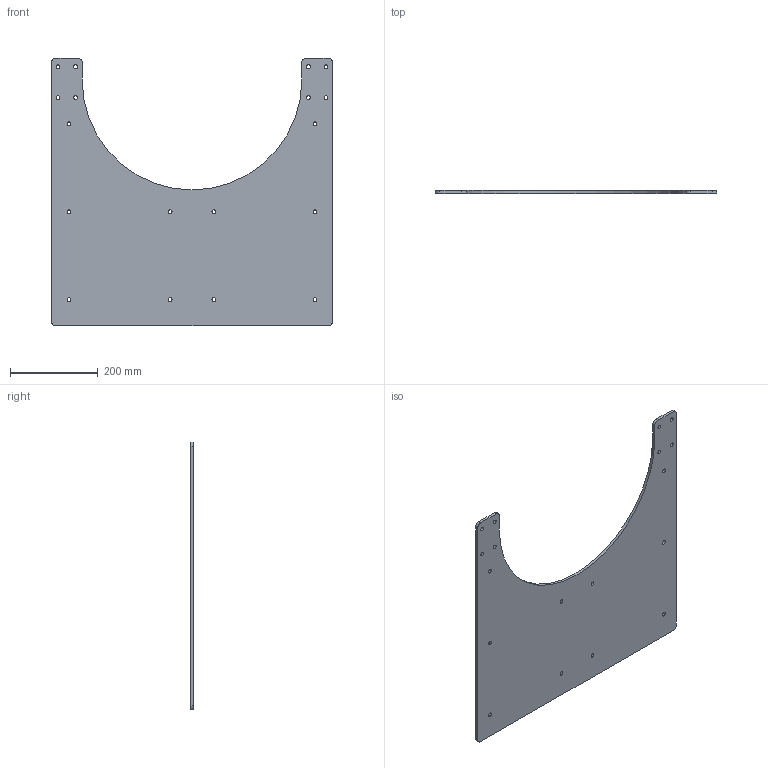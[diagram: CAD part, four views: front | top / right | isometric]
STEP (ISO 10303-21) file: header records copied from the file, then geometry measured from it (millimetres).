
FILE_DESCRIPTION (( 'STEP AP214' ), '1' );
FILE_NAME ('MISC1812ES120BWLTBL.STEP', '2021-03-08T22:55:02', ( '' ), ( '' ), 'SwSTEP 2.0', 'SolidWorks 2021', '' );
FILE_SCHEMA (( 'AUTOMOTIVE_DESIGN' ));
Length unit declared in the file: millimetre
Products named in the file (1): MISC1812ES120BWLTBL
Bounding box: 640 x 6.5 x 610 mm (x, y, z)
Volume: 1728037.6 mm3; surface area: 553602.3 mm2
Topology: 1 solids, 1 shells, 52 faces, 150 edges, 100 vertices
Faces by surface type: cylinder 43, plane 9
Entity records: 1866 total; most frequent: DIRECTION 342, CARTESIAN_POINT 303, ORIENTED_EDGE 300, EDGE_CURVE 150, AXIS2_PLACEMENT_3D 139, VERTEX_POINT 100, EDGE_LOOP 88, CIRCLE 86
